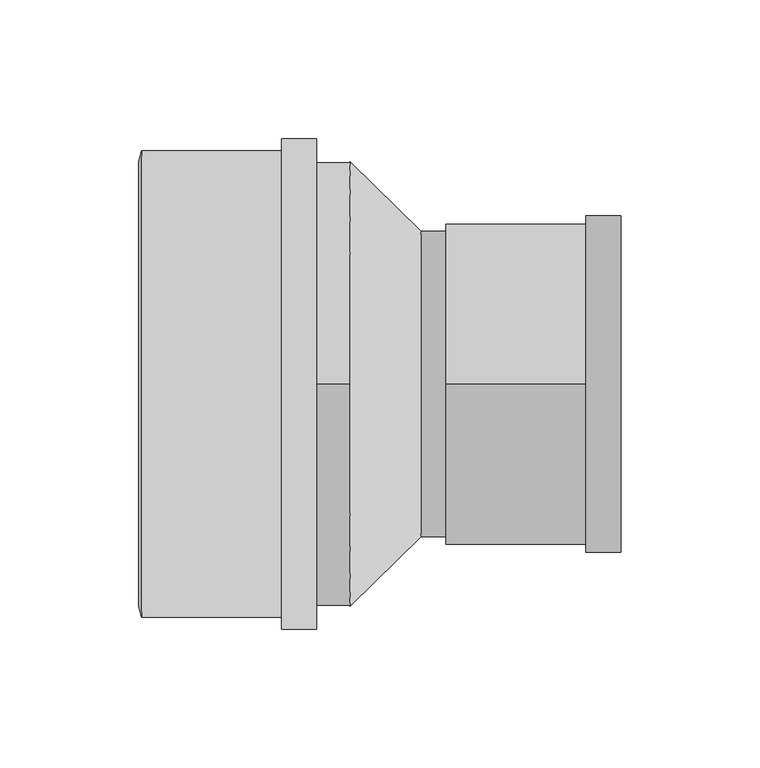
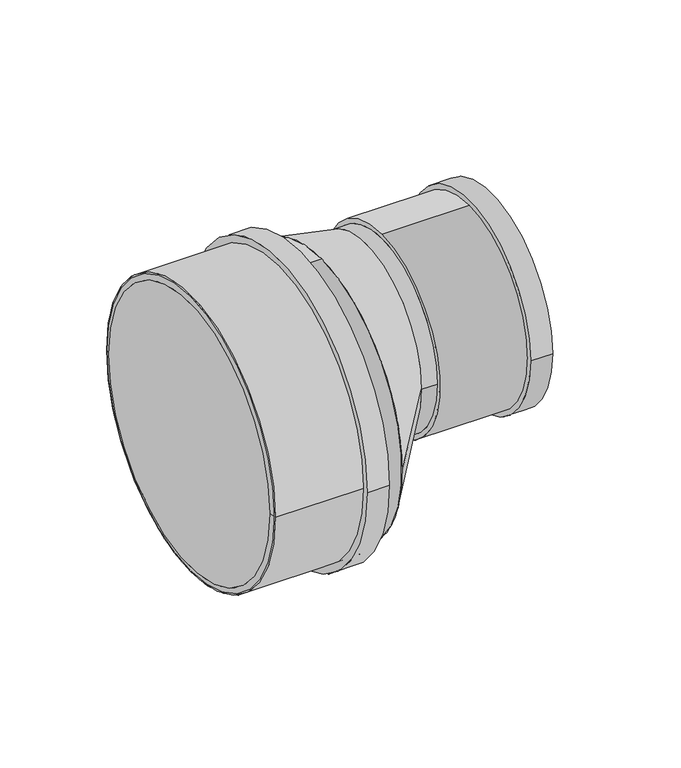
"""IFC4 building model written with IfcOpenShell, lengths in millimetres: pipe fitting geometry, Superdrain HTR-Reducer : Superdrain HTR-Reducer."""

from ifc_helpers import new_model, si_unit, point, frame, frame_2d, origin, origin_2d, place, context, project, spatial, polyline, circle_curve, trimmed, segment, composite_curve, outline, extrude, source, transform, mapped, element, save
from ifc_brep_helpers import plane_surface, revolved_surface, spline_surface, advanced_brep


def pipe_fitting_82743415(model_context):
    return source(origin(), model_context, "Body", "SolidModel", [
        extrude(outline(composite_curve([segment(trimmed(circle_curve(frame_2d((0.0, 0.1450234)), 84.0), [point((84.0, 0.1450234))], [point((-84.0, 0.1450234))], False, "CARTESIAN"), True, "CONTINUOUS"), segment(trimmed(circle_curve(frame_2d((0.0, 0.1450234)), 84.0), [point((-84.0, 0.1450234))], [point((84.0, 0.1450234))], False, "CARTESIAN"), True, "CONTINUOUS")], self_intersect=False), holes=[composite_curve([segment(trimmed(circle_curve(frame_2d((0.0, 0.1450234)), 80.0), [point((80.0, 0.1450234))], [point((-80.0, 0.1450234))], True, "CARTESIAN"), True, "CONTINUOUS"), segment(trimmed(circle_curve(frame_2d((0.0, 0.1450234)), 80.0), [point((-80.0, 0.1450234))], [point((80.0, 0.1450234))], True, "CARTESIAN"), True, "CONTINUOUS")], self_intersect=False)]), frame((-75.0, 0.0, 0.0), z_axis=(1.0, 0.0, 0.0), x_axis=(0.0, 1.0, 0.0)), (0.0, 0.0, 1.0), 63.0),
        extrude(outline(composite_curve([segment(trimmed(circle_curve(frame_2d((0.0, 0.1450234)), 88.2), [point((88.2, 0.1450234))], [point((-88.2, 0.1450234))], False, "CARTESIAN"), True, "CONTINUOUS"), segment(trimmed(circle_curve(frame_2d((0.0, 0.1450234)), 88.2), [point((-88.2, 0.1450234))], [point((88.2, 0.1450234))], False, "CARTESIAN"), True, "CONTINUOUS")], self_intersect=False), holes=[composite_curve([segment(trimmed(circle_curve(frame_2d((0.0, 0.1450234)), 80.0), [point((80.0, 0.1450234))], [point((-80.0, 0.1450234))], True, "CARTESIAN"), True, "CONTINUOUS"), segment(trimmed(circle_curve(frame_2d((0.0, 0.1450234)), 80.0), [point((-80.0, 0.1450234))], [point((80.0, 0.1450234))], True, "CARTESIAN"), True, "CONTINUOUS")], self_intersect=False)]), frame((-24.6, 0.0, 0.0), z_axis=(1.0, 0.0, 0.0), x_axis=(0.0, 1.0, 0.0)), (0.0, 0.0, 1.0), 12.6),
        advanced_brep(
        [(-76.0, 80.0, 0.1450234), (-76.0, -80.0, 0.1450234), (-75.0, 84.0, 0.1450234), (-75.0, -84.0, 0.1450234)],
        [
            (0, 1, circle_curve(frame((-76.0, 0.0, 0.1450234), z_axis=(-1.0, 0.0, 0.0), x_axis=(0.0, 1.0, 0.0)), 80.0)),
            (1, 0, circle_curve(frame((-76.0, 0.0, 0.1450234), z_axis=(-1.0, 0.0, 0.0), x_axis=(0.0, -1.0, 0.0)), 80.0)),
            (2, 3, circle_curve(frame((-75.0, 0.0, 0.1450234), z_axis=(1.0, 0.0, 0.0), x_axis=(0.0, -1.0, 0.0)), 84.0)),
            (3, 2, circle_curve(frame((-75.0, 0.0, 0.1450234), z_axis=(1.0, 0.0, 0.0), x_axis=(0.0, 1.0, 0.0)), 84.0)),
            (3, 1),
            (0, 2),
        ],
        [
            plane_surface(frame((-76.0, 0.0, 0.1450234), z_axis=(-1.0, 0.0, 0.0), x_axis=(0.0, 0.0, -1.0))),
            plane_surface(frame((-75.0, 0.0, 0.1450234), z_axis=(1.0, 0.0, 0.0), x_axis=(0.0, 0.0, -1.0))),
            revolved_surface(polyline([(-76.0, 80.0, 0.1450234), (-75.0, 84.0, 0.1450234)]), (-96.0, 0.0, 0.1450234), (1.0, 0.0, 0.0)),
            revolved_surface(polyline([(-76.0, -80.0, 0.1450234), (-75.0, -84.0, 0.1450234)]), (-96.0, 0.0, 0.1450234), (1.0, 0.0, 0.0)),
        ],
        [
            (0, [[1, 2]]),
            (1, [[3, 4]]),
            (2, [[-4, 5, -1, 6]]),
            (3, [[-3, -6, -2, -5]]),
        ],
    ),
        advanced_brep(
        [(25.6, -55.0, 25.0), (25.6, 55.0, 25.0), (0.0, -80.0, 0.0), (0.0, 80.0, 0.0)],
        [
            (0, 1, circle_curve(frame((25.6, 0.0, 25.0), z_axis=(1.0, 0.0, 0.0), x_axis=(0.0, 1.0, 0.0)), 55.0)),
            (1, 0, circle_curve(frame((25.6, 0.0, 25.0), z_axis=(1.0, 0.0, 0.0), x_axis=(0.0, 1.0, 0.0)), 55.0)),
            (2, 3, circle_curve(frame((0.0, 0.0, 0.0), z_axis=(-1.0, 0.0, 0.0), x_axis=(0.0, 1.0, 0.0)), 80.0)),
            (3, 2, circle_curve(frame((0.0, 0.0, 0.0), z_axis=(-1.0, 0.0, 0.0), x_axis=(0.0, 1.0, 0.0)), 80.0)),
            (3, 1),
            (0, 2),
        ],
        [
            plane_surface(frame((25.6, 0.0, 25.0), z_axis=(1.0, 0.0, 0.0), x_axis=(0.0, 0.0, -1.0))),
            plane_surface(frame((0.0, 0.0, 0.0), z_axis=(-1.0, 0.0, 0.0), x_axis=(0.0, 0.0, -1.0))),
            spline_surface(2, 1, [[(0.0, -80.0, 0.0), (25.6, -55.0, 25.0)], [(0.0, -80.0, -80.0), (25.6, -55.0, -30.0)], [(0.0, 0.0, -80.0), (25.6, 0.0, -30.0)], [(0.0, 80.0, -80.0), (25.6, 55.0, -30.0)], [(0.0, 80.0, 0.0), (25.6, 55.0, 25.0)]], [3, 2, 3], [2, 2], [0.0, 1.0, 2.0], [0.0, 1.0], weights=[[1.0, 1.0], [0.7071067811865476, 0.7071067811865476], [1.0, 1.0], [0.7071067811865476, 0.7071067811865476], [1.0, 1.0]]),
            spline_surface(2, 1, [[(0.0, 80.0, 0.0), (25.6, 55.0, 25.0)], [(0.0, 80.0, 80.0), (25.6, 55.0, 80.0)], [(0.0, 0.0, 80.0), (25.6, 0.0, 80.0)], [(0.0, -80.0, 80.0), (25.6, -55.0, 80.0)], [(0.0, -80.0, 0.0), (25.6, -55.0, 25.0)]], [3, 2, 3], [2, 2], [0.0, 1.0, 2.0], [0.0, 1.0], weights=[[1.0, 1.0], [0.7071067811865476, 0.7071067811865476], [1.0, 1.0], [0.7071067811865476, 0.7071067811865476], [1.0, 1.0]]),
        ],
        [
            (0, [[1, 2]]),
            (1, [[3, 4]]),
            (2, [[-4, 5, -1, 6]]),
            (3, [[-3, -6, -2, -5]]),
        ],
    ),
        extrude(outline(composite_curve([segment(trimmed(circle_curve(frame_2d((0.0, 25.0)), 55.0), [point((-55.0, 25.0))], [point((55.0, 25.0))], False, "CARTESIAN"), True, "CONTINUOUS"), segment(trimmed(circle_curve(frame_2d((0.0, 25.0)), 55.0), [point((55.0, 25.0))], [point((-55.0, 25.0))], False, "CARTESIAN"), True, "CONTINUOUS")], self_intersect=False)), frame((25.6, 0.0, 0.0), z_axis=(1.0, 0.0, 0.0), x_axis=(0.0, 1.0, 0.0)), (0.0, 0.0, 1.0), 9.0),
        extrude(outline(composite_curve([segment(trimmed(circle_curve(frame_2d((0.0, 25.0)), 60.6375), [point((-60.6375, 25.0))], [point((60.6375, 25.0))], False, "CARTESIAN"), True, "CONTINUOUS"), segment(trimmed(circle_curve(frame_2d((0.0, 25.0)), 60.6375), [point((60.6375, 25.0))], [point((-60.6375, 25.0))], False, "CARTESIAN"), True, "CONTINUOUS")], self_intersect=False), holes=[composite_curve([segment(trimmed(circle_curve(frame_2d((0.0, 25.0)), 55.0), [point((55.0, 25.0))], [point((-55.0, 25.0))], True, "CARTESIAN"), True, "CONTINUOUS"), segment(trimmed(circle_curve(frame_2d((0.0, 25.0)), 55.0), [point((-55.0, 25.0))], [point((55.0, 25.0))], True, "CARTESIAN"), True, "CONTINUOUS")], self_intersect=False)]), frame((85.0, 0.0, 0.0), z_axis=(1.0, 0.0, 0.0), x_axis=(0.0, 1.0, 0.0)), (0.0, 0.0, 1.0), 12.6),
        extrude(outline(composite_curve([segment(trimmed(circle_curve(frame_2d((0.0, 25.0)), 57.75), [point((0.0, 82.75))], [point((0.0, -32.75))], False, "CARTESIAN"), True, "CONTINUOUS"), segment(trimmed(circle_curve(frame_2d((0.0, 25.0)), 57.75), [point((0.0, -32.75))], [point((0.0, 82.75))], False, "CARTESIAN"), True, "CONTINUOUS")], self_intersect=False), holes=[composite_curve([segment(trimmed(circle_curve(frame_2d((0.0, 25.0)), 55.0), [point((55.0, 25.0))], [point((-55.0, 25.0))], True, "CARTESIAN"), True, "CONTINUOUS"), segment(trimmed(circle_curve(frame_2d((0.0, 25.0)), 55.0), [point((-55.0, 25.0))], [point((55.0, 25.0))], True, "CARTESIAN"), True, "CONTINUOUS")], self_intersect=False)]), frame((34.6, 0.0, 0.0), z_axis=(1.0, 0.0, 0.0), x_axis=(0.0, 1.0, 0.0)), (0.0, 0.0, 1.0), 63.0),
        extrude(outline(composite_curve([segment(trimmed(circle_curve(origin_2d(), 80.0), [point((0.0, 80.0))], [point((0.0, -80.0))], False, "CARTESIAN"), True, "CONTINUOUS"), segment(trimmed(circle_curve(origin_2d(), 80.0), [point((0.0, -80.0))], [point((0.0, 80.0))], False, "CARTESIAN"), True, "CONTINUOUS")], self_intersect=False)), frame((-75.0, 0.0, 0.0), z_axis=(1.0, 0.0, 0.0), x_axis=(0.0, 1.0, 0.0)), (0.0, 0.0, 1.0), 75.0),
    ])


if __name__ == "__main__":
    model = new_model("IFC4")
    model_context = context("Model", 3, world=origin())
    ifc_project = project(units=[si_unit("LENGTHUNIT", "METRE", prefix="MILLI")], contexts=[model_context])
    site = spatial("IfcSite", under=ifc_project)
    building = spatial("IfcBuilding", under=site)
    placement = place(None, origin())
    pipe_fitting_shape = pipe_fitting_82743415(model_context)
    element("IfcPipeFitting", 1, ObjectType="Superdrain HTR-Reducer : Superdrain HTR-Reducer", at=placement, inside=building, context=model_context, shape_type="MappedRepresentation", body=[
        mapped(pipe_fitting_shape, transform((0.0, 0.0, 0.0), x_axis=(1.0, 0.0, 0.0), y_axis=(0.0, 1.0, 0.0), z_axis=(0.0, 0.0, 1.0))),
    ])
    save(model, "model.ifc")
